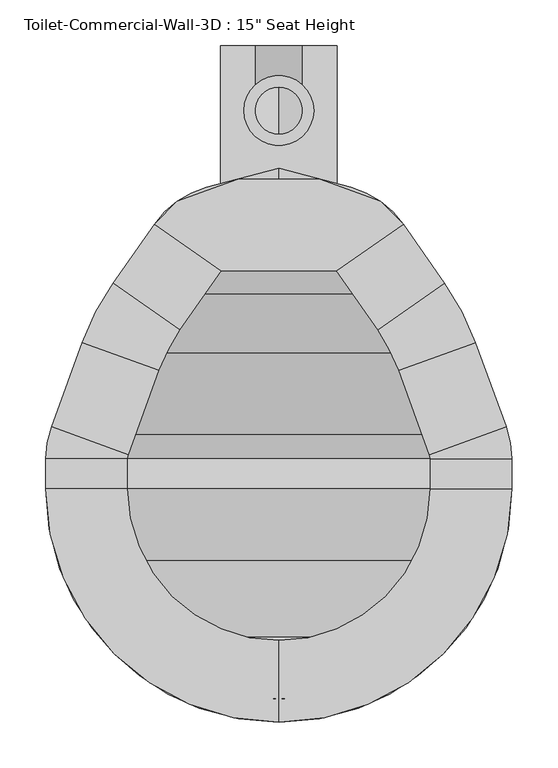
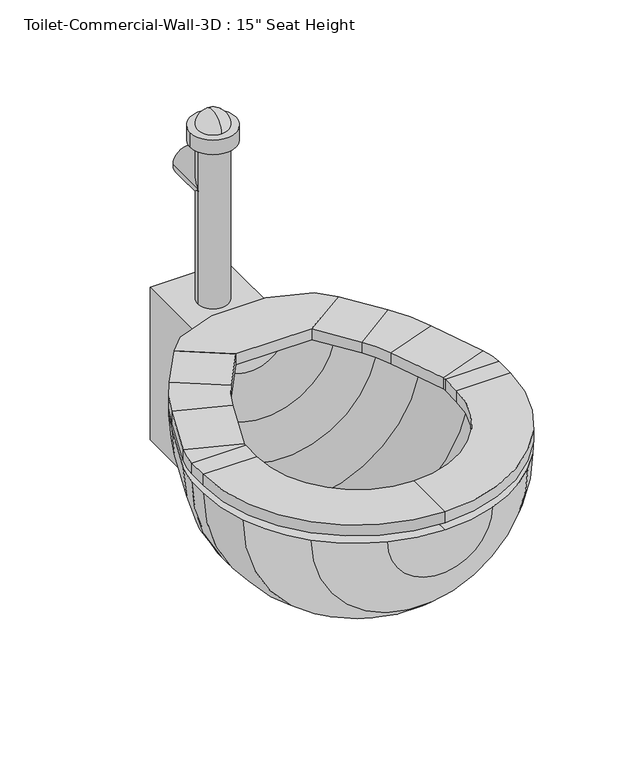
"""IFC4 building model written with IfcOpenShell, lengths in millimetres: flow terminal geometry."""

from ifc_helpers import new_model, si_unit, point, frame, frame_2d, origin, place, context, project, spatial, polyline, circle_curve, ellipse_curve, trimmed, segment, composite_curve, outline, extrude, source, transform, mapped, element, save
from ifc_brep_helpers import plane_surface, cylinder_surface, revolved_surface, advanced_brep


def flow_terminal_faf6b21e(model_context):
    return source(origin(), model_context, "Body", "SolidModel", [
        extrude(outline(polyline([(467.7541169, -397.4347495), (342.0521907, -397.4347495), (269.229574, -346.4438043), (294.1800557, -321.4933226), (360.2423986, -297.4485961), (449.563909, -297.4485961), (515.6262519, -321.4933226), (540.5767337, -346.4438043), (467.7541169, -397.4347495)])), frame((0.0, 0.0, 355.6), z_axis=(0.0, 0.0, 1.0), x_axis=(1.0, 0.0, 0.0)), (0.0, 0.0, 1.0), 19.05),
        advanced_brep(
        [(467.7541169, -397.4347495, 355.6), (467.7541169, -397.4347495, 374.65), (540.5767337, -346.4438043, 374.65), (540.5767337, -346.4438043, 355.6), (585.6810159, -410.8593951, 355.6), (512.8583992, -461.8503403, 355.6), (585.6810159, -410.8593951, 374.65), (512.8583992, -461.8503403, 374.65), (619.360053, -475.5562234, 355.6), (535.821379, -505.9618141, 355.6), (619.360053, -475.5562234, 374.65), (535.821379, -505.9618141, 374.65), (652.7759241, -567.3655747, 355.6), (569.2372501, -597.7711654, 355.6), (652.7759241, -567.3655747, 374.65), (569.2372501, -597.7711654, 374.65), (658.9031538, -602.1148212, 355.6), (570.0031538, -602.1148212, 355.6), (658.9031538, -602.1148212, 374.65), (570.0031538, -602.1148212, 374.65), (658.9031538, -635.0, 355.6), (570.0031538, -635.0, 355.6), (658.9031538, -635.0, 374.65), (570.0031538, -635.0, 374.65), (404.9031538, -889.0, 355.6), (404.9031538, -800.1, 355.6), (404.9031538, -889.0, 374.65), (404.9031538, -800.1, 374.65), (150.9031538, -635.0, 355.6), (239.8031538, -635.0, 355.6), (150.9031538, -635.0, 374.65), (239.8031538, -635.0, 374.65), (150.9031538, -602.1148212, 355.6), (239.8031538, -602.1148212, 355.6), (150.9031538, -602.1148212, 374.65), (239.8031538, -602.1148212, 374.65), (157.0303835, -567.3655747, 355.6), (240.5690575, -597.7711654, 355.6), (157.0303835, -567.3655747, 374.65), (240.5690575, -597.7711654, 374.65), (190.4462546, -475.5562234, 355.6), (273.9849286, -505.9618141, 355.6), (190.4462546, -475.5562234, 374.65), (273.9849286, -505.9618141, 374.65), (224.1252917, -410.8593951, 355.6), (296.9479084, -461.8503403, 355.6), (224.1252917, -410.8593951, 374.65), (296.9479084, -461.8503403, 374.65), (342.0521907, -397.4347495, 355.6), (269.229574, -346.4438043, 355.6), (269.229574, -346.4438043, 374.65), (342.0521907, -397.4347495, 374.65)],
        [
            (0, 1),
            (1, 2),
            (2, 3),
            (3, 0),
            (3, 4),
            (4, 5),
            (5, 0),
            (2, 6),
            (6, 4),
            (1, 7),
            (7, 6),
            (5, 7),
            (8, 9),
            (9, 5, circle_curve(frame((356.8099347, -571.1166514, 355.6), z_axis=(0.0, 0.0, 1.0), x_axis=(0.81915204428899, 0.5735764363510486, 0.0)), 190.5)),
            (4, 8, circle_curve(frame((356.8099347, -571.1166514, 355.6), z_axis=(0.0, 0.0, -1.0), x_axis=(0.81915204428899, 0.5735764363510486, 0.0)), 279.4)),
            (10, 8),
            (6, 10, circle_curve(frame((356.8099347, -571.1166514, 374.65), z_axis=(0.0, 0.0, -1.0), x_axis=(0.81915204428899, 0.5735764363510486, 0.0)), 279.4)),
            (11, 10),
            (7, 11, circle_curve(frame((356.8099347, -571.1166514, 374.65), z_axis=(0.0, 0.0, -1.0), x_axis=(0.81915204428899, 0.5735764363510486, 0.0)), 190.5)),
            (9, 11),
            (8, 12),
            (12, 13),
            (13, 9),
            (10, 14),
            (14, 12),
            (11, 15),
            (15, 14),
            (13, 15),
            (16, 17),
            (17, 13, circle_curve(frame((557.3031538, -602.1148212, 355.6), z_axis=(0.0, 0.0, 1.0), x_axis=(0.9396926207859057, 0.3420201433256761, 0.0)), 12.7)),
            (12, 16, circle_curve(frame((557.3031538, -602.1148212, 355.6), z_axis=(0.0, 0.0, -1.0), x_axis=(0.9396926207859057, 0.3420201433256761, 0.0)), 101.6)),
            (18, 16),
            (14, 18, circle_curve(frame((557.3031538, -602.1148212, 374.65), z_axis=(0.0, 0.0, -1.0), x_axis=(0.9396926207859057, 0.3420201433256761, 0.0)), 101.6)),
            (19, 18),
            (15, 19, circle_curve(frame((557.3031538, -602.1148212, 374.65), z_axis=(0.0, 0.0, -1.0), x_axis=(0.9396926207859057, 0.3420201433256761, 0.0)), 12.7)),
            (17, 19),
            (16, 20),
            (20, 21),
            (21, 17),
            (18, 22),
            (22, 20),
            (19, 23),
            (23, 22),
            (21, 23),
            (24, 25),
            (25, 21, circle_curve(frame((404.9031538, -635.0, 355.6), z_axis=(0.0, 0.0, 1.0), x_axis=(1.0, 0.0, 0.0)), 165.1)),
            (20, 24, circle_curve(frame((404.9031538, -635.0, 355.6), z_axis=(0.0, 0.0, -1.0), x_axis=(1.0, 0.0, 0.0)), 254.0)),
            (26, 24),
            (22, 26, circle_curve(frame((404.9031538, -635.0, 374.65), z_axis=(0.0, 0.0, -1.0), x_axis=(1.0, 0.0, 0.0)), 254.0)),
            (27, 26),
            (23, 27, circle_curve(frame((404.9031538, -635.0, 374.65), z_axis=(0.0, 0.0, -1.0), x_axis=(1.0, 0.0, 0.0)), 165.1)),
            (25, 27),
            (28, 29),
            (29, 25, circle_curve(frame((404.9031538, -635.0, 355.6), z_axis=(0.0, 0.0, 1.0), x_axis=(0.0, -1.0, 0.0)), 165.1)),
            (24, 28, circle_curve(frame((404.9031538, -635.0, 355.6), z_axis=(0.0, 0.0, -1.0), x_axis=(0.0, -1.0, 0.0)), 254.0)),
            (30, 28),
            (26, 30, circle_curve(frame((404.9031538, -635.0, 374.65), z_axis=(0.0, 0.0, -1.0), x_axis=(0.0, -1.0, 0.0)), 254.0)),
            (31, 30),
            (27, 31, circle_curve(frame((404.9031538, -635.0, 374.65), z_axis=(0.0, 0.0, -1.0), x_axis=(0.0, -1.0, 0.0)), 165.1)),
            (29, 31),
            (28, 32),
            (32, 33),
            (33, 29),
            (30, 34),
            (34, 32),
            (31, 35),
            (35, 34),
            (33, 35),
            (36, 37),
            (37, 33, circle_curve(frame((252.5031538, -602.1148212, 355.6), z_axis=(0.0, 0.0, 1.0), x_axis=(-1.0, 0.0, 0.0)), 12.7)),
            (32, 36, circle_curve(frame((252.5031538, -602.1148212, 355.6), z_axis=(0.0, 0.0, -1.0), x_axis=(-1.0, 0.0, 0.0)), 101.6)),
            (38, 36),
            (34, 38, circle_curve(frame((252.5031538, -602.1148212, 374.65), z_axis=(0.0, 0.0, -1.0), x_axis=(-1.0, 0.0, 0.0)), 101.6)),
            (39, 38),
            (35, 39, circle_curve(frame((252.5031538, -602.1148212, 374.65), z_axis=(0.0, 0.0, -1.0), x_axis=(-1.0, 0.0, 0.0)), 12.7)),
            (37, 39),
            (36, 40),
            (40, 41),
            (41, 37),
            (38, 42),
            (42, 40),
            (39, 43),
            (43, 42),
            (41, 43),
            (44, 45),
            (45, 41, circle_curve(frame((452.9963729, -571.1166514, 355.6), z_axis=(0.0, 0.0, 1.0), x_axis=(-0.9396926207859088, 0.34202014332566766, 0.0)), 190.5)),
            (40, 44, circle_curve(frame((452.9963729, -571.1166514, 355.6), z_axis=(0.0, 0.0, -1.0), x_axis=(-0.9396926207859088, 0.34202014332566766, 0.0)), 279.4)),
            (46, 44),
            (42, 46, circle_curve(frame((452.9963729, -571.1166514, 374.65), z_axis=(0.0, 0.0, -1.0), x_axis=(-0.9396926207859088, 0.34202014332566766, 0.0)), 279.4)),
            (47, 46),
            (43, 47, circle_curve(frame((452.9963729, -571.1166514, 374.65), z_axis=(0.0, 0.0, -1.0), x_axis=(-0.9396926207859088, 0.34202014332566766, 0.0)), 190.5)),
            (45, 47),
            (48, 49),
            (49, 50),
            (50, 51),
            (51, 48),
            (44, 49),
            (48, 45),
            (46, 50),
            (47, 51),
        ],
        [
            plane_surface(frame((540.5767337, -346.4438043, 437.2995365), z_axis=(-0.5735764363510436, 0.8191520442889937, 0.0), x_axis=(0.8191520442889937, 0.5735764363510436, 0.0))),
            plane_surface(frame((467.7541169, -397.4347495, 355.6), z_axis=(0.0, 0.0, -1.0000000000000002), x_axis=(0.5735764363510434, -0.8191520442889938, 0.0))),
            plane_surface(frame((540.5767337, -346.4438043, 355.6), z_axis=(0.8191520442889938, 0.5735764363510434, 0.0), x_axis=(0.5735764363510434, -0.8191520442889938, 0.0))),
            plane_surface(frame((540.5767337, -346.4438043, 374.65), z_axis=(0.0, 0.0, 1.0000000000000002), x_axis=(0.5735764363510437, -0.8191520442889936, 0.0))),
            plane_surface(frame((467.7541169, -397.4347495, 374.65), z_axis=(-0.8191520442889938, -0.5735764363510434, 0.0), x_axis=(0.5735764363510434, -0.8191520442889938, 0.0))),
            plane_surface(frame((356.8099347, -571.1166514, 355.6), z_axis=(0.0, 0.0, -1.0), x_axis=(0.81915204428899, 0.5735764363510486, 0.0))),
            cylinder_surface(frame((356.8099347, -571.1166514, 342.9), z_axis=(0.0, 0.0, 1.0), x_axis=(0.81915204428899, 0.5735764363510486, 0.0)), 279.4),
            plane_surface(frame((356.8099347, -571.1166514, 374.65), z_axis=(0.0, 0.0, 1.0), x_axis=(0.81915204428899, 0.5735764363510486, 0.0))),
            revolved_surface(polyline([(512.8583991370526, -461.8503402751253, 374.65), (512.8583991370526, -461.8503402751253, 355.6)]), (356.8099347, -571.1166514, 342.9), (0.0, 0.0, 1.0)),
            plane_surface(frame((535.821379, -505.9618141, 355.6), z_axis=(0.0, 0.0, -1.0), x_axis=(0.34202014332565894, -0.939692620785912, 0.0))),
            plane_surface(frame((619.360053, -475.5562234, 355.6), z_axis=(0.9396926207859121, 0.3420201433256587, 0.0), x_axis=(0.3420201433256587, -0.9396926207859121, 0.0))),
            plane_surface(frame((619.360053, -475.5562234, 374.65), z_axis=(0.0, 0.0, 1.0), x_axis=(0.3420201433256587, -0.9396926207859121, 0.0))),
            plane_surface(frame((535.821379, -505.9618141, 374.65), z_axis=(-0.939692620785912, -0.34202014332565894, 0.0), x_axis=(0.34202014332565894, -0.939692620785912, 0.0))),
            plane_surface(frame((557.3031538, -602.1148212, 355.6), z_axis=(0.0, 0.0, -1.0000000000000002), x_axis=(0.9396926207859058, 0.34202014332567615, 0.0))),
            cylinder_surface(frame((557.3031538, -602.1148212, 342.9), z_axis=(0.0, 0.0, 1.0), x_axis=(0.9396926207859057, 0.3420201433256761, 0.0)), 101.6),
            plane_surface(frame((557.3031538, -602.1148212, 374.65), z_axis=(0.0, 0.0, 1.0000000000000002), x_axis=(0.9396926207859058, 0.34202014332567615, 0.0))),
            revolved_surface(polyline([(569.237250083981, -597.7711653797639, 374.65), (569.237250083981, -597.7711653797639, 355.6)]), (557.3031538, -602.1148212, 342.9), (0.0, 0.0, 1.0)),
            plane_surface(frame((570.0031538, -602.1148212, 355.6), z_axis=(0.0, 0.0, -1.0), x_axis=(0.0, -1.0, 0.0))),
            plane_surface(frame((658.9031538, -602.1148212, 355.6), z_axis=(1.0, 0.0, 0.0), x_axis=(0.0, -1.0, 0.0))),
            plane_surface(frame((658.9031538, -602.1148212, 374.65), z_axis=(0.0, 0.0, 1.0), x_axis=(0.0, -1.0, 0.0))),
            plane_surface(frame((570.0031538, -602.1148212, 374.65), z_axis=(-1.0, 0.0, 0.0), x_axis=(0.0, -1.0, 0.0))),
            plane_surface(frame((404.9031538, -635.0, 355.6), z_axis=(0.0, 0.0, -1.0), x_axis=(1.0, 0.0, 0.0))),
            cylinder_surface(frame((404.9031538, -635.0, 342.9), z_axis=(0.0, 0.0, 1.0), x_axis=(1.0, 0.0, 0.0)), 254.0),
            plane_surface(frame((404.9031538, -635.0, 374.65), z_axis=(0.0, 0.0, 1.0), x_axis=(1.0, 0.0, 0.0))),
            revolved_surface(polyline([(570.0031538, -635.0, 374.65), (570.0031538, -635.0, 355.6)]), (404.9031538, -635.0, 342.9), (0.0, 0.0, 1.0)),
            plane_surface(frame((404.9031538, -635.0, 355.6), z_axis=(0.0, 0.0, -1.0), x_axis=(0.0, -1.0, 0.0))),
            cylinder_surface(frame((404.9031538, -635.0, 342.9), z_axis=(0.0, 0.0, 1.0), x_axis=(0.0, -1.0, 0.0)), 254.0),
            plane_surface(frame((404.9031538, -635.0, 374.65), z_axis=(0.0, 0.0, 1.0), x_axis=(0.0, -1.0, 0.0))),
            revolved_surface(polyline([(404.9031538, -800.1, 374.65), (404.9031538, -800.1, 355.6)]), (404.9031538, -635.0, 342.9), (0.0, 0.0, 1.0)),
            plane_surface(frame((239.8031538, -635.0, 355.6), z_axis=(0.0, 0.0, -1.0), x_axis=(0.0, 1.0, 0.0))),
            plane_surface(frame((150.9031538, -635.0, 355.6), z_axis=(-1.0, 0.0, 0.0), x_axis=(0.0, 1.0, 0.0))),
            plane_surface(frame((150.9031538, -635.0, 374.65), z_axis=(0.0, 0.0, 1.0), x_axis=(0.0, 1.0, 0.0))),
            plane_surface(frame((239.8031538, -635.0, 374.65), z_axis=(1.0, 0.0, 0.0), x_axis=(0.0, 1.0, 0.0))),
            plane_surface(frame((252.5031538, -602.1148212, 355.6), z_axis=(0.0, 0.0, -1.0), x_axis=(-1.0, 0.0, 0.0))),
            cylinder_surface(frame((252.5031538, -602.1148212, 342.9), z_axis=(0.0, 0.0, 1.0), x_axis=(-1.0, 0.0, 0.0)), 101.6),
            plane_surface(frame((252.5031538, -602.1148212, 374.65), z_axis=(0.0, 0.0, 1.0), x_axis=(-1.0, 0.0, 0.0))),
            revolved_surface(polyline([(239.80315380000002, -602.1148212, 374.65), (239.80315380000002, -602.1148212, 355.6)]), (252.5031538, -602.1148212, 342.9), (0.0, 0.0, 1.0)),
            plane_surface(frame((240.5690575, -597.7711654, 355.6), z_axis=(0.0, 0.0, -1.0), x_axis=(0.3420201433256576, 0.9396926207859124, 0.0))),
            plane_surface(frame((157.0303835, -567.3655747, 355.6), z_axis=(-0.9396926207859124, 0.34202014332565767, 0.0), x_axis=(0.34202014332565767, 0.9396926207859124, 0.0))),
            plane_surface(frame((157.0303835, -567.3655747, 374.65), z_axis=(0.0, 0.0, 1.0), x_axis=(0.3420201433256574, 0.9396926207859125, 0.0))),
            plane_surface(frame((240.5690575, -597.7711654, 374.65), z_axis=(0.9396926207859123, -0.34202014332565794, 0.0), x_axis=(0.34202014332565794, 0.9396926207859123, 0.0))),
            plane_surface(frame((452.9963729, -571.1166514, 355.6), z_axis=(0.0, 0.0, -1.0), x_axis=(-0.9396926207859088, 0.34202014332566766, 0.0))),
            cylinder_surface(frame((452.9963729, -571.1166514, 342.9), z_axis=(0.0, 0.0, 1.0), x_axis=(-0.9396926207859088, 0.34202014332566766, 0.0)), 279.4),
            plane_surface(frame((452.9963729, -571.1166514, 374.65), z_axis=(0.0, 0.0, 1.0), x_axis=(-0.9396926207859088, 0.34202014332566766, 0.0))),
            revolved_surface(polyline([(273.98492864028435, -505.96181409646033, 374.65), (273.98492864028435, -505.96181409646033, 355.6)]), (452.9963729, -571.1166514, 342.9), (0.0, 0.0, 1.0)),
            plane_surface(frame((269.229574, -346.4438043, 248.5004635), z_axis=(0.573576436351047, 0.8191520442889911, 0.0), x_axis=(0.8191520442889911, -0.573576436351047, 0.0))),
            plane_surface(frame((296.9479084, -461.8503403, 355.6), z_axis=(0.0, 0.0, -1.0000000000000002), x_axis=(0.5735764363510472, 0.8191520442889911, 0.0))),
            plane_surface(frame((224.1252917, -410.8593951, 355.6), z_axis=(-0.8191520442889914, 0.5735764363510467, 0.0), x_axis=(0.5735764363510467, 0.8191520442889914, 0.0))),
            plane_surface(frame((224.1252917, -410.8593951, 374.65), z_axis=(0.0, 0.0, 1.0), x_axis=(0.5735764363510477, 0.8191520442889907, 0.0))),
            plane_surface(frame((296.9479084, -461.8503403, 374.65), z_axis=(0.8191520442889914, -0.5735764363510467, 0.0), x_axis=(0.5735764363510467, 0.8191520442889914, 0.0))),
        ],
        [
            (0, [[1, 2, 3, 4]]),
            (1, [[5, 6, 7, -4]]),
            (2, [[8, 9, -5, -3]]),
            (3, [[10, 11, -8, -2]]),
            (4, [[-7, 12, -10, -1]]),
            (5, [[13, 14, -6, 15]]),
            (6, [[16, -15, -9, 17]]),
            (7, [[18, -17, -11, 19]]),
            (8, [[20, -19, -12, -14]]),
            (9, [[21, 22, 23, -13]]),
            (10, [[24, 25, -21, -16]]),
            (11, [[26, 27, -24, -18]]),
            (12, [[-23, 28, -26, -20]]),
            (13, [[29, 30, -22, 31]]),
            (14, [[32, -31, -25, 33]]),
            (15, [[34, -33, -27, 35]]),
            (16, [[36, -35, -28, -30]]),
            (17, [[37, 38, 39, -29]]),
            (18, [[40, 41, -37, -32]]),
            (19, [[42, 43, -40, -34]]),
            (20, [[-39, 44, -42, -36]]),
            (21, [[45, 46, -38, 47]]),
            (22, [[48, -47, -41, 49]]),
            (23, [[50, -49, -43, 51]]),
            (24, [[52, -51, -44, -46]]),
            (25, [[53, 54, -45, 55]]),
            (26, [[56, -55, -48, 57]]),
            (27, [[58, -57, -50, 59]]),
            (28, [[60, -59, -52, -54]]),
            (29, [[61, 62, 63, -53]]),
            (30, [[64, 65, -61, -56]]),
            (31, [[66, 67, -64, -58]]),
            (32, [[-63, 68, -66, -60]]),
            (33, [[69, 70, -62, 71]]),
            (34, [[72, -71, -65, 73]]),
            (35, [[74, -73, -67, 75]]),
            (36, [[76, -75, -68, -70]]),
            (37, [[77, 78, 79, -69]]),
            (38, [[80, 81, -77, -72]]),
            (39, [[82, 83, -80, -74]]),
            (40, [[-79, 84, -82, -76]]),
            (41, [[85, 86, -78, 87]]),
            (42, [[88, -87, -81, 89]]),
            (43, [[90, -89, -83, 91]]),
            (44, [[92, -91, -84, -86]]),
            (45, [[93, 94, 95, 96]]),
            (46, [[97, -93, 98, -85]]),
            (47, [[99, -94, -97, -88]]),
            (48, [[100, -95, -99, -90]]),
            (49, [[-98, -96, -100, -92]]),
        ],
    ),
        advanced_brep(
        [(491.7762702, -873.6819257, 342.9), (584.5082762, -814.6051224, 342.9), (643.5850795, -721.8731164, 342.9), (658.9031538, -635.0, 342.9), (658.9031538, -602.1148212, 342.9), (652.7759241, -567.3655747, 342.9), (619.360053, -475.5562234, 342.9), (585.6810159, -410.8593951, 342.9), (540.5767337, -346.4438043, 342.9), (483.6469009, -306.5811063, 342.9), (404.9031538, -285.4817829, 342.9), (404.9031538, -311.7777978, 342.9), (468.1430637, -328.7228806, 342.9), (525.0728964, -368.5855786, 342.9), (562.9565296, -422.6890139, 342.9), (596.6355667, -487.3858422, 342.9), (628.9077315, -576.0528863, 342.9), (633.5031538, -602.1148212, 342.9), (633.5031538, -635.0, 342.9), (619.7168869, -713.1858048, 342.9), (566.547764, -796.6446102, 342.9), (483.0889586, -849.8137331, 342.9), (404.9031538, -863.6, 342.9), (404.9031538, -889.0, 342.9), (318.0300374, -873.6819257, 342.9), (326.7173491, -849.8137331, 342.9), (243.2585436, -796.6446102, 342.9), (190.0894207, -713.1858048, 342.9), (176.3031538, -635.0, 342.9), (176.3031538, -602.1148212, 342.9), (180.8985761, -576.0528863, 342.9), (213.1707409, -487.3858422, 342.9), (246.849778, -422.6890139, 342.9), (284.7334112, -368.5855786, 342.9), (341.663244, -328.7228806, 342.9), (326.1594067, -306.5811063, 342.9), (269.229574, -346.4438043, 342.9), (224.1252917, -410.8593951, 342.9), (190.4462546, -475.5562234, 342.9), (157.0303835, -567.3655747, 342.9), (150.9031538, -602.1148212, 342.9), (150.9031538, -635.0, 342.9), (166.2212281, -721.8731164, 342.9), (225.2980314, -814.6051224, 342.9)],
        [
            (0, 1, circle_curve(frame((404.9031538, -635.0, 342.9), z_axis=(0.0, 0.0, 1.0), x_axis=(1.0, 0.0, 0.0)), 254.0)),
            (1, 2, circle_curve(frame((404.9031538, -635.0, 342.9), z_axis=(0.0, 0.0, 1.0), x_axis=(1.0, 0.0, 0.0)), 254.0)),
            (2, 3, circle_curve(frame((404.9031538, -635.0, 342.9), z_axis=(0.0, 0.0, 1.0), x_axis=(1.0, 0.0, 0.0)), 254.0)),
            (3, 4),
            (4, 5, circle_curve(frame((557.3031538, -602.1148212, 342.9), z_axis=(0.0, 0.0, 1.0), x_axis=(1.0, 0.0, 0.0)), 101.6)),
            (5, 6),
            (6, 7, circle_curve(frame((356.8099347, -571.1166514, 342.9), z_axis=(0.0, 0.0, 1.0), x_axis=(1.0, 0.0, 0.0)), 279.4)),
            (7, 8),
            (8, 9, circle_curve(frame((457.350886, -404.7191703, 342.9), z_axis=(0.0, 0.0, 1.0), x_axis=(1.0, 0.0, 0.0)), 101.6)),
            (9, 10),
            (10, 11),
            (11, 12),
            (12, 13, circle_curve(frame((441.8470487, -426.8609446, 342.9), z_axis=(0.0, 0.0, -1.0), x_axis=(1.0, 0.0, 0.0)), 101.6)),
            (13, 14),
            (14, 15, circle_curve(frame((334.0854485, -582.9462703, 342.9), z_axis=(0.0, 0.0, -1.0), x_axis=(1.0, 0.0, 0.0)), 279.4)),
            (15, 16),
            (16, 17, circle_curve(frame((557.3031538, -602.1148212, 342.9), z_axis=(0.0, 0.0, -1.0), x_axis=(1.0, 0.0, 0.0)), 76.2)),
            (17, 18),
            (18, 19, circle_curve(frame((404.9031538, -635.0, 342.9), z_axis=(0.0, 0.0, -1.0), x_axis=(1.0, 0.0, 0.0)), 228.6)),
            (19, 20, circle_curve(frame((404.9031538, -635.0, 342.9), z_axis=(0.0, 0.0, -1.0), x_axis=(1.0, 0.0, 0.0)), 228.6)),
            (20, 21, circle_curve(frame((404.9031538, -635.0, 342.9), z_axis=(0.0, 0.0, -1.0), x_axis=(1.0, 0.0, 0.0)), 228.6)),
            (21, 22, circle_curve(frame((404.9031538, -635.0, 342.9), z_axis=(0.0, 0.0, -1.0), x_axis=(1.0, 0.0, 0.0)), 228.6)),
            (22, 23),
            (23, 0, circle_curve(frame((404.9031538, -635.0, 342.9), z_axis=(0.0, 0.0, 1.0), x_axis=(1.0, 0.0, 0.0)), 254.0)),
            (24, 23, circle_curve(frame((404.9031538, -635.0, 342.9), z_axis=(0.0, 0.0, 1.0), x_axis=(-1.0, 0.0, 0.0)), 254.0)),
            (22, 25, circle_curve(frame((404.9031538, -635.0, 342.9), z_axis=(0.0, 0.0, -1.0), x_axis=(-1.0, 0.0, 0.0)), 228.6)),
            (25, 26, circle_curve(frame((404.9031538, -635.0, 342.9), z_axis=(0.0, 0.0, -1.0), x_axis=(-1.0, 0.0, 0.0)), 228.6)),
            (26, 27, circle_curve(frame((404.9031538, -635.0, 342.9), z_axis=(0.0, 0.0, -1.0), x_axis=(-1.0, 0.0, 0.0)), 228.6)),
            (27, 28, circle_curve(frame((404.9031538, -635.0, 342.9), z_axis=(0.0, 0.0, -1.0), x_axis=(-1.0, 0.0, 0.0)), 228.6)),
            (28, 29),
            (29, 30, circle_curve(frame((252.5031538, -602.1148212, 342.9), z_axis=(0.0, 0.0, -1.0), x_axis=(-1.0, 0.0, 0.0)), 76.2)),
            (30, 31),
            (31, 32, circle_curve(frame((475.7208592, -582.9462703, 342.9), z_axis=(0.0, 0.0, -1.0), x_axis=(-1.0, 0.0, 0.0)), 279.4)),
            (32, 33),
            (33, 34, circle_curve(frame((367.9592589, -426.8609446, 342.9), z_axis=(0.0, 0.0, -1.0), x_axis=(-1.0, 0.0, 0.0)), 101.6)),
            (34, 11),
            (10, 35),
            (35, 36, circle_curve(frame((352.4554217, -404.7191703, 342.9), z_axis=(0.0, 0.0, 1.0), x_axis=(-1.0, 0.0, 0.0)), 101.6)),
            (36, 37),
            (37, 38, circle_curve(frame((452.9963729, -571.1166514, 342.9), z_axis=(0.0, 0.0, 1.0), x_axis=(-1.0, 0.0, 0.0)), 279.4)),
            (38, 39),
            (39, 40, circle_curve(frame((252.5031538, -602.1148212, 342.9), z_axis=(0.0, 0.0, 1.0), x_axis=(-1.0, 0.0, 0.0)), 101.6)),
            (40, 41),
            (41, 42, circle_curve(frame((404.9031538, -635.0, 342.9), z_axis=(0.0, 0.0, 1.0), x_axis=(-1.0, 0.0, 0.0)), 254.0)),
            (42, 43, circle_curve(frame((404.9031538, -635.0, 342.9), z_axis=(0.0, 0.0, 1.0), x_axis=(-1.0, 0.0, 0.0)), 254.0)),
            (43, 24, circle_curve(frame((404.9031538, -635.0, 342.9), z_axis=(0.0, 0.0, 1.0), x_axis=(-1.0, 0.0, 0.0)), 254.0)),
            (24, 0, circle_curve(frame((404.9031538, -873.6819257, 342.9), z_axis=(0.0, -1.0, 0.0), x_axis=(1.0, 0.0, 0.0)), 86.8731164)),
            (21, 25, circle_curve(frame((404.9031538, -849.8137331, 342.9), z_axis=(0.0, 1.0, 0.0), x_axis=(1.0, 0.0, 0.0)), 78.1858048)),
            (20, 26, circle_curve(frame((404.9031538, -796.6446102, 342.9), z_axis=(0.0, 1.0, 0.0), x_axis=(1.0, 0.0, 0.0)), 161.6446102)),
            (19, 27, circle_curve(frame((404.9031538, -713.1858048, 342.9), z_axis=(0.0, 1.0, 0.0), x_axis=(1.0, 0.0, 0.0)), 214.8137331)),
            (18, 28, circle_curve(frame((404.9031538, -635.0, 342.9), z_axis=(0.0, 1.0, 0.0), x_axis=(1.0, 0.0, 0.0)), 228.6)),
            (17, 29, circle_curve(frame((404.9031538, -602.1148212, 342.9), z_axis=(0.0, 1.0, 0.0), x_axis=(1.0, 0.0, 0.0)), 228.6)),
            (16, 30, circle_curve(frame((404.9031538, -576.0528863, 342.9), z_axis=(0.0, 1.0, 0.0), x_axis=(1.0, 0.0, 0.0)), 224.0045777)),
            (15, 31, circle_curve(frame((404.9031538, -487.3858422, 342.9), z_axis=(0.0, 1.0, 0.0), x_axis=(1.0, 0.0, 0.0)), 191.7324129)),
            (14, 32, circle_curve(frame((404.9031538, -422.6890139, 342.9), z_axis=(0.0, 1.0, 0.0), x_axis=(1.0, 0.0, 0.0)), 158.0533758)),
            (13, 33, circle_curve(frame((404.9031538, -368.5855786, 342.9), z_axis=(0.0, 1.0, 0.0), x_axis=(1.0, 0.0, 0.0)), 120.1697426)),
            (12, 34, circle_curve(frame((404.9031538, -328.7228806, 342.9), z_axis=(0.0, 1.0, 0.0), x_axis=(1.0, 0.0, 0.0)), 63.2399099)),
            (9, 35, circle_curve(frame((404.9031538, -306.5811063, 342.9), z_axis=(0.0, 1.0, 0.0), x_axis=(1.0, 0.0, 0.0)), 78.7437471)),
            (8, 36, circle_curve(frame((404.9031538, -346.4438043, 342.9), z_axis=(0.0, 1.0, 0.0), x_axis=(1.0, 0.0, 0.0)), 135.6735798)),
            (7, 37, circle_curve(frame((404.9031538, -410.8593951, 342.9), z_axis=(0.0, 1.0, 0.0), x_axis=(1.0, 0.0, 0.0)), 180.7778621)),
            (6, 38, circle_curve(frame((404.9031538, -475.5562234, 342.9), z_axis=(0.0, 1.0, 0.0), x_axis=(1.0, 0.0, 0.0)), 214.4568992)),
            (5, 39, circle_curve(frame((404.9031538, -567.3655747, 342.9), z_axis=(0.0, 1.0, 0.0), x_axis=(1.0, 0.0, 0.0)), 247.8727703)),
            (4, 40, circle_curve(frame((404.9031538, -602.1148212, 342.9), z_axis=(0.0, 1.0, 0.0), x_axis=(1.0, 0.0, 0.0)), 254.0)),
            (3, 41, circle_curve(frame((404.9031538, -635.0, 342.9), z_axis=(0.0, 1.0, 0.0), x_axis=(1.0, 0.0, 0.0)), 254.0)),
            (2, 42, circle_curve(frame((404.9031538, -721.8731164, 342.9), z_axis=(0.0, 1.0, 0.0), x_axis=(1.0, 0.0, 0.0)), 238.6819257)),
            (1, 43, circle_curve(frame((404.9031538, -814.6051224, 342.9), z_axis=(0.0, 1.0, 0.0), x_axis=(1.0, 0.0, 0.0)), 179.6051224)),
        ],
        [
            plane_surface(frame((404.9031538, -994.2102448, 342.9), z_axis=(0.0, 0.0, 1.0), x_axis=(1.0, 0.0, 0.0))),
            plane_surface(frame((404.9031538, -994.2102448, 342.9), z_axis=(0.0, 0.0, 1.0), x_axis=(-1.0, 0.0, 0.0))),
            revolved_surface(trimmed(ellipse_curve(frame((404.9031538, -635.0, 342.9), z_axis=(0.0, 0.0, -1.0), x_axis=(1.0, 0.0, 0.0)), 254.0, 254.0), [point((491.7762702, -873.6819257, 342.9))], [point((404.9031538, -889.0, 342.9))], True, "CARTESIAN"), (404.9031538, -994.2102448, 342.9), (0.0, -1.0, 0.0)),
            revolved_surface(trimmed(ellipse_curve(frame((404.9031538, -635.0, 342.9), z_axis=(0.0, 0.0, 1.0), x_axis=(1.0, 0.0, 0.0)), 228.6, 228.6), [point((404.9031538, -863.6, 342.9))], [point((483.0889586, -849.8137331, 342.9))], True, "CARTESIAN"), (404.9031538, -994.2102448, 342.9), (0.0, -1.0, 0.0)),
            revolved_surface(trimmed(ellipse_curve(frame((404.9031538, -635.0, 342.9), z_axis=(0.0, 0.0, 1.0), x_axis=(1.0, 0.0, 0.0)), 228.6, 228.6), [point((483.0889586, -849.8137331, 342.9))], [point((566.547764, -796.6446102, 342.9))], True, "CARTESIAN"), (404.9031538, -994.2102448, 342.9), (0.0, -1.0, 0.0)),
            revolved_surface(trimmed(ellipse_curve(frame((404.9031538, -635.0, 342.9), z_axis=(0.0, 0.0, 1.0), x_axis=(1.0, 0.0, 0.0)), 228.6, 228.6), [point((566.547764, -796.6446102, 342.9))], [point((619.7168869, -713.1858048, 342.9))], True, "CARTESIAN"), (404.9031538, -994.2102448, 342.9), (0.0, -1.0, 0.0)),
            revolved_surface(trimmed(ellipse_curve(frame((404.9031538, -635.0, 342.9), z_axis=(0.0, 0.0, 1.0), x_axis=(1.0, 0.0, 0.0)), 228.6, 228.6), [point((619.7168869, -713.1858048, 342.9))], [point((633.5031538, -635.0, 342.9))], True, "CARTESIAN"), (404.9031538, -994.2102448, 342.9), (0.0, -1.0, 0.0)),
            revolved_surface(polyline([(633.5031538, -635.0, 342.9), (633.5031538, -602.1148212, 342.9)]), (404.9031538, -994.2102448, 342.9), (0.0, -1.0, 0.0)),
            revolved_surface(trimmed(ellipse_curve(frame((557.3031538, -602.1148212, 342.9), z_axis=(0.0, 0.0, 1.0), x_axis=(1.0, 0.0, 0.0)), 76.2, 76.2), [point((633.5031538, -602.1148212, 342.9))], [point((628.9077315, -576.0528863, 342.9))], True, "CARTESIAN"), (404.9031538, -994.2102448, 342.9), (0.0, -1.0, 0.0)),
            revolved_surface(polyline([(628.9077315, -576.0528863, 342.9), (596.6355667, -487.3858422, 342.9)]), (404.9031538, -994.2102448, 342.9), (0.0, -1.0, 0.0)),
            revolved_surface(trimmed(ellipse_curve(frame((334.0854485, -582.9462703, 342.9), z_axis=(0.0, 0.0, 1.0), x_axis=(1.0, 0.0, 0.0)), 279.4, 279.4), [point((596.6355667, -487.3858422, 342.9))], [point((562.9565296, -422.6890139, 342.9))], True, "CARTESIAN"), (404.9031538, -994.2102448, 342.9), (0.0, -1.0, 0.0)),
            revolved_surface(polyline([(562.9565296, -422.6890139, 342.9), (525.0728964, -368.5855786, 342.9)]), (404.9031538, -994.2102448, 342.9), (0.0, -1.0, 0.0)),
            revolved_surface(trimmed(ellipse_curve(frame((441.8470487, -426.8609446, 342.9), z_axis=(0.0, 0.0, 1.0), x_axis=(1.0, 0.0, 0.0)), 101.6, 101.6), [point((525.0728964, -368.5855786, 342.9))], [point((468.1430637, -328.7228806, 342.9))], True, "CARTESIAN"), (404.9031538, -994.2102448, 342.9), (0.0, -1.0, 0.0)),
            revolved_surface(polyline([(468.1430637, -328.7228806, 342.9), (404.9031538, -311.7777978, 342.9)]), (404.9031538, -994.2102448, 342.9), (0.0, -1.0, 0.0)),
            revolved_surface(polyline([(404.9031538, -285.4817829, 342.9), (483.6469009, -306.5811063, 342.9)]), (404.9031538, -994.2102448, 342.9), (0.0, -1.0, 0.0)),
            revolved_surface(trimmed(ellipse_curve(frame((457.350886, -404.7191703, 342.9), z_axis=(0.0, 0.0, -1.0), x_axis=(1.0, 0.0, 0.0)), 101.6, 101.6), [point((483.6469009, -306.5811063, 342.9))], [point((540.5767337, -346.4438043, 342.9))], True, "CARTESIAN"), (404.9031538, -994.2102448, 342.9), (0.0, -1.0, 0.0)),
            revolved_surface(polyline([(540.5767337, -346.4438043, 342.9), (585.6810159, -410.8593951, 342.9)]), (404.9031538, -994.2102448, 342.9), (0.0, -1.0, 0.0)),
            revolved_surface(trimmed(ellipse_curve(frame((356.8099347, -571.1166514, 342.9), z_axis=(0.0, 0.0, -1.0), x_axis=(1.0, 0.0, 0.0)), 279.4, 279.4), [point((585.6810159, -410.8593951, 342.9))], [point((619.360053, -475.5562234, 342.9))], True, "CARTESIAN"), (404.9031538, -994.2102448, 342.9), (0.0, -1.0, 0.0)),
            revolved_surface(polyline([(619.360053, -475.5562234, 342.9), (652.7759241, -567.3655747, 342.9)]), (404.9031538, -994.2102448, 342.9), (0.0, -1.0, 0.0)),
            revolved_surface(trimmed(ellipse_curve(frame((557.3031538, -602.1148212, 342.9), z_axis=(0.0, 0.0, -1.0), x_axis=(1.0, 0.0, 0.0)), 101.6, 101.6), [point((652.7759241, -567.3655747, 342.9))], [point((658.9031538, -602.1148212, 342.9))], True, "CARTESIAN"), (404.9031538, -994.2102448, 342.9), (0.0, -1.0, 0.0)),
            cylinder_surface(frame((404.9031538, -994.2102448, 342.9), z_axis=(0.0, -1.0, 0.0), x_axis=(1.0, 0.0, 0.0)), 254.0),
            revolved_surface(trimmed(ellipse_curve(frame((404.9031538, -635.0, 342.9), z_axis=(0.0, 0.0, -1.0), x_axis=(1.0, 0.0, 0.0)), 254.0, 254.0), [point((658.9031538, -635.0, 342.9))], [point((643.5850795, -721.8731164, 342.9))], True, "CARTESIAN"), (404.9031538, -994.2102448, 342.9), (0.0, -1.0, 0.0)),
            revolved_surface(trimmed(ellipse_curve(frame((404.9031538, -635.0, 342.9), z_axis=(0.0, 0.0, -1.0), x_axis=(1.0, 0.0, 0.0)), 254.0, 254.0), [point((643.5850795, -721.8731164, 342.9))], [point((584.5082762, -814.6051224, 342.9))], True, "CARTESIAN"), (404.9031538, -994.2102448, 342.9), (0.0, -1.0, 0.0)),
            revolved_surface(trimmed(ellipse_curve(frame((404.9031538, -635.0, 342.9), z_axis=(0.0, 0.0, -1.0), x_axis=(1.0, 0.0, 0.0)), 254.0, 254.0), [point((584.5082762, -814.6051224, 342.9))], [point((491.7762702, -873.6819257, 342.9))], True, "CARTESIAN"), (404.9031538, -994.2102448, 342.9), (0.0, -1.0, 0.0)),
        ],
        [
            (0, [[1, 2, 3, 4, 5, 6, 7, 8, 9, 10, 11, 12, 13, 14, 15, 16, 17, 18, 19, 20, 21, 22, 23, 24]]),
            (1, [[25, -23, 26, 27, 28, 29, 30, 31, 32, 33, 34, 35, 36, -11, 37, 38, 39, 40, 41, 42, 43, 44, 45, 46]]),
            (2, [[-25, 47, -24]]),
            (3, [[-26, -22, 48]]),
            (4, [[-27, -48, -21, 49]]),
            (5, [[-28, -49, -20, 50]]),
            (6, [[-29, -50, -19, 51]]),
            (7, [[-30, -51, -18, 52]]),
            (8, [[-31, -52, -17, 53]]),
            (9, [[-32, -53, -16, 54]]),
            (10, [[-33, -54, -15, 55]]),
            (11, [[-34, -55, -14, 56]]),
            (12, [[-35, -56, -13, 57]]),
            (13, [[-36, -57, -12]]),
            (14, [[-37, -10, 58]]),
            (15, [[-38, -58, -9, 59]]),
            (16, [[-39, -59, -8, 60]]),
            (17, [[-40, -60, -7, 61]]),
            (18, [[-41, -61, -6, 62]]),
            (19, [[-42, -62, -5, 63]]),
            (20, [[-43, -63, -4, 64]]),
            (21, [[-44, -64, -3, 65]]),
            (22, [[-45, -65, -2, 66]]),
            (23, [[-46, -66, -1, -47]]),
        ],
    ),
        advanced_brep(
        [(404.9031538, -197.3176912, 647.7), (404.9031538, -222.9352737, 673.3175826), (404.9031538, -248.5528563, 647.7), (404.9031538, -222.9352737, 647.7)],
        [
            (0, 1, circle_curve(frame((404.9031538, -222.9352737, 647.7), z_axis=(1.0, 0.0, 0.0), x_axis=(0.0, -1.0, 0.0)), 25.6175826)),
            (1, 2, circle_curve(frame((404.9031538, -222.9352737, 647.7), z_axis=(1.0, 0.0, 0.0), x_axis=(0.0, 1.0, 0.0)), 25.6175826)),
            (2, 0, circle_curve(frame((404.9031538, -222.9352737, 647.7), z_axis=(0.0, 0.0, 1.0), x_axis=(0.0, -1.0, 0.0)), 25.6175826)),
            (0, 2, circle_curve(frame((404.9031538, -222.9352737, 647.7), z_axis=(0.0, 0.0, 1.0), x_axis=(0.0, -1.0, 0.0)), 25.6175826)),
            (3, 0),
            (2, 3),
        ],
        [
            revolved_surface(trimmed(ellipse_curve(frame((404.9031538, -222.9352737, 647.7), z_axis=(1.0, 0.0, 0.0), x_axis=(0.0, 1.0, 0.0)), 25.6175826, 25.6175826), [point((404.9031538, -222.9352737, 673.3175826))], [point((404.9031538, -248.5528563, 647.7))], True, "CARTESIAN"), (404.9031538, -222.9352737, 712.3277273), (0.0, 0.0, -1.0)),
            plane_surface(frame((404.9031538, -222.9352737, 647.7), z_axis=(0.0, 0.0, -1.0), x_axis=(0.0, -1.0, 0.0))),
        ],
        [
            (0, [[1, 2, 3]]),
            (0, [[-2, -1, 4]]),
            (1, [[5, -3, 6]]),
            (1, [[-6, -4, -5]]),
        ],
    ),
        extrude(outline(composite_curve([segment(trimmed(circle_curve(frame_2d((404.9031538, -222.9352737)), 38.1), [point((366.8031538, -222.9352737))], [point((443.0031538, -222.9352737))], False, "CARTESIAN"), True, "CONTINUOUS"), segment(trimmed(circle_curve(frame_2d((404.9031538, -222.9352737)), 38.1), [point((443.0031538, -222.9352737))], [point((366.8031538, -222.9352737))], False, "CARTESIAN"), True, "CONTINUOUS")], self_intersect=False)), frame((0.0, 0.0, 622.3), z_axis=(0.0, 0.0, 1.0), x_axis=(1.0, 0.0, 0.0)), (0.0, 0.0, 1.0), 25.4),
        extrude(outline(composite_curve([segment(trimmed(circle_curve(frame_2d((544.2113641, 404.9031538)), 25.4), [point((544.2113641, 379.5031538))], [point((544.2113641, 430.3031538))], False, "CARTESIAN"), True, "CONTINUOUS"), segment(trimmed(circle_curve(frame_2d((544.2113641, 404.9031538)), 25.4), [point((544.2113641, 430.3031538))], [point((544.2113641, 379.5031538))], False, "CARTESIAN"), True, "CONTINUOUS")], self_intersect=False)), frame((0.0, -223.04375, 0.0), z_axis=(0.0, 1.0, 0.0), x_axis=(0.0, 0.0, 1.0)), (0.0, 0.0, 1.0), 70.64375),
        extrude(outline(polyline([(-305.2037941, 342.9), (-152.4, 342.9), (-152.4, 76.2), (-372.4454017, 76.2), (-452.9426282, 134.0328588), (-348.9103185, 206.8770663), (-305.2037941, 269.296452), (-305.2037941, 342.9)])), frame((341.4031538, 0.0, 0.0), z_axis=(1.0, 0.0, 0.0), x_axis=(0.0, 1.0, 0.0)), (0.0, 0.0, 1.0), 127.0),
        extrude(outline(composite_curve([segment(trimmed(circle_curve(frame_2d((404.9031538, -222.9352737)), 25.4), [point((379.5031538, -222.9352737))], [point((430.3031538, -222.9352737))], False, "CARTESIAN"), True, "CONTINUOUS"), segment(trimmed(circle_curve(frame_2d((404.9031538, -222.9352737)), 25.4), [point((430.3031538, -222.9352737))], [point((379.5031538, -222.9352737))], False, "CARTESIAN"), True, "CONTINUOUS")], self_intersect=False)), frame((0.0, 0.0, 342.9), z_axis=(0.0, 0.0, 1.0), x_axis=(1.0, 0.0, 0.0)), (0.0, 0.0, 1.0), 279.4),
    ])


if __name__ == "__main__":
    model = new_model("IFC4")
    model_context = context("Model", 3, world=origin())
    ifc_project = project(units=[si_unit("LENGTHUNIT", "METRE", prefix="MILLI")], contexts=[model_context])
    site = spatial("IfcSite", under=ifc_project)
    building = spatial("IfcBuilding", under=site)
    placement = place(None, origin())
    flow_terminal_shape = flow_terminal_faf6b21e(model_context)
    element("IfcFlowTerminal", 1, ObjectType="Toilet-Commercial-Wall-3D : 15\" Seat Height", at=placement, inside=building, context=model_context, shape_type="MappedRepresentation", body=[
        mapped(flow_terminal_shape, transform((0.0, 0.0, 0.0), x_axis=(1.0, 0.0, 0.0), y_axis=(0.0, 1.0, 0.0), z_axis=(0.0, 0.0, 1.0))),
    ])
    save(model, "model.ifc")
